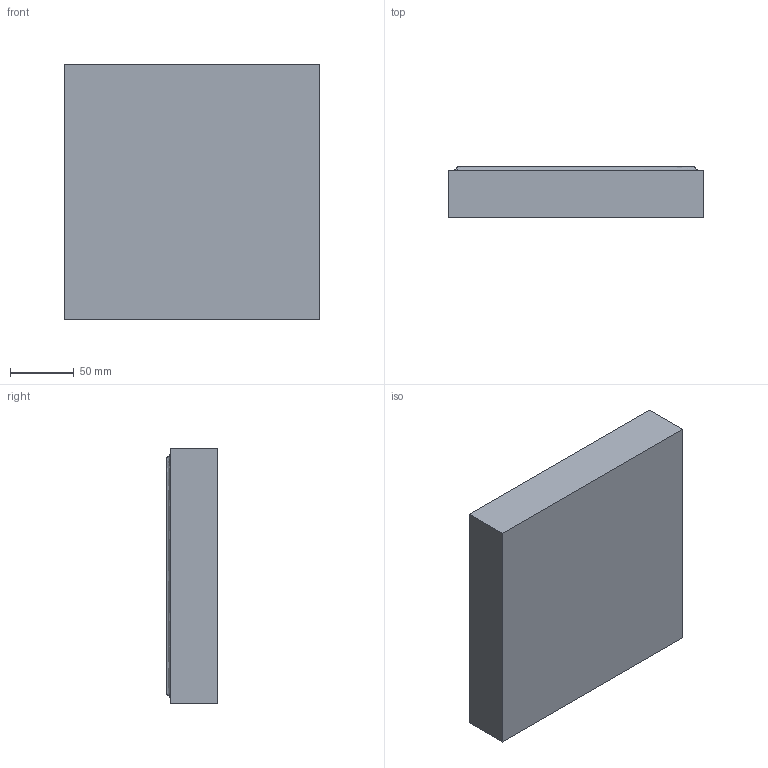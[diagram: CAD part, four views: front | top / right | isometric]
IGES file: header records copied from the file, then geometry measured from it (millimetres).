
Start section: SolidWorks IGES file using analytic representation for surfaces
Global section: file name: C:\SANTACOLE_PDM\I2\Productos de catálogo\outdoor\Mobiliario\Matisse\6_TECNICO COMERCIAL\3D WEB\Pavimento Henri Matisse.IGS; native system: SolidWorks 2013; preprocessor: SolidWorks 2013; author: jordi.munoz; date: 150622.110319; units: millimetre
Bounding box: 200 x 40 x 200 mm (x, y, z)
Surface area: 113372.1 mm2 (no closed solid volume)
Topology: 0 solids, 0 shells, 187 faces, 1297 edges, 1297 vertices
Faces by surface type: bspline 179, revolution 8
